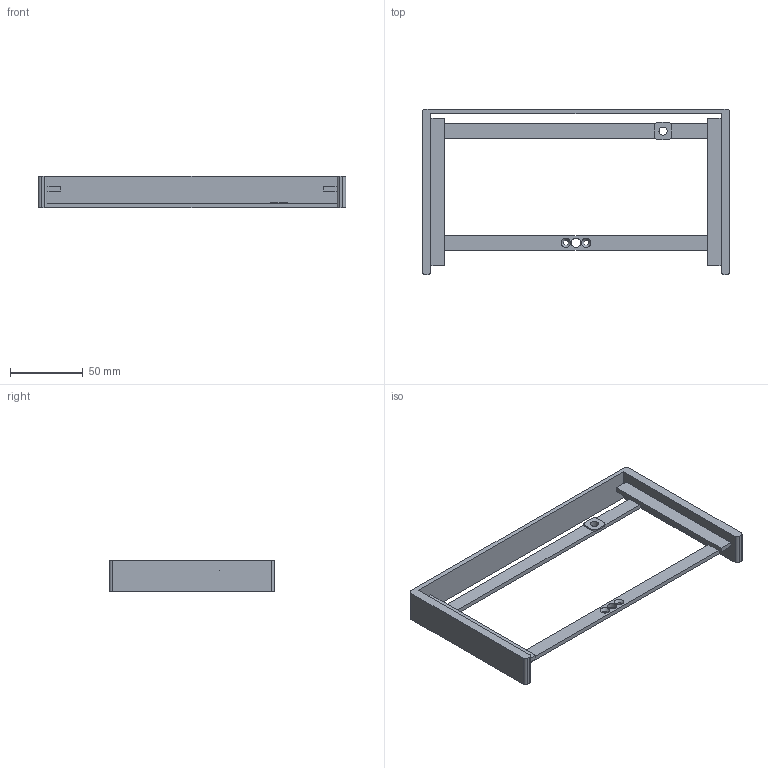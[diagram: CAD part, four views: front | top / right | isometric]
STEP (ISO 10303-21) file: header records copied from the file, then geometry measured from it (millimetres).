
FILE_DESCRIPTION(('Open CASCADE Model'),'2;1');
FILE_NAME('Open CASCADE Shape Model','2026-09-13T15:24:11',('Author'),( 'Open CASCADE'),'Open CASCADE STEP processor 7.9','build123d', 'Unknown');
FILE_SCHEMA(('AUTOMOTIVE_DESIGN { 1 0 10303 214 1 1 1 1 }'));
Length unit declared in the file: millimetre
Products named in the file (2): =>[0:1:1:2]; COMPOUND
Assembly tree (1 placements, depth 2):
  =>[0:1:1:2]
    COMPOUND
Bounding box: 212 x 114 x 22 mm (x, y, z)
Volume: 61299 mm3; surface area: 37471.7 mm2
Topology: 1 solids, 1 shells, 50 faces, 142 edges, 94 vertices
Faces by surface type: plane 34, cylinder 14, cone 2
Full cylindrical faces by diameter (mm): 3.4 x2, 5.6 x1, 6.4 x1
Entity records: 3514 total; most frequent: CARTESIAN_POINT 688, DIRECTION 508, LINE 316, VECTOR 316, ORIENTED_EDGE 284, PCURVE 284, DEFINITIONAL_REPRESENTATION 284, EDGE_CURVE 142
